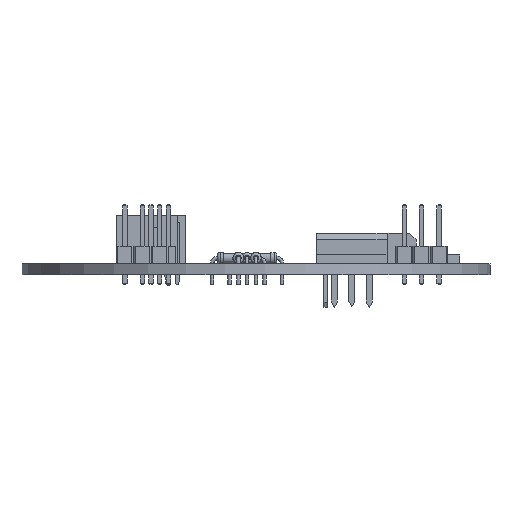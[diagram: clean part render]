
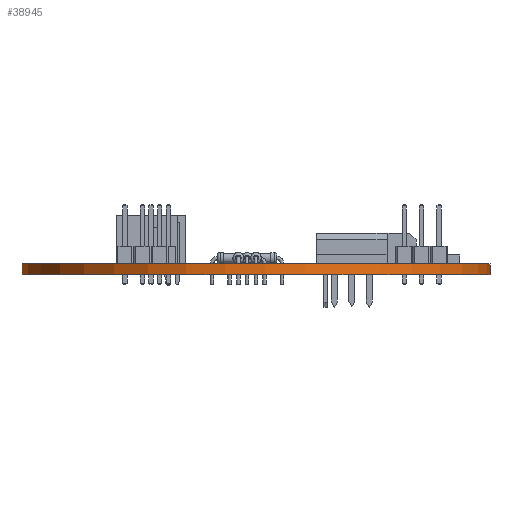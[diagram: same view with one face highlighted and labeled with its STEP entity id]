
A CAD part, left-side view. The second image highlights one B-rep face of the part: STEP entity #38945.
In plain terms, the highlighted cylindrical face has radius 34.077 mm (diameter 68.154 mm), a partial arc.
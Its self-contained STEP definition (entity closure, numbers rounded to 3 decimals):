
#38829 = EDGE_CURVE('',#38830,#38832,#38834,.T.);
#38830 = VERTEX_POINT('',#38831);
#38831 = CARTESIAN_POINT('',(248.639,-120.681,0.));
#38832 = VERTEX_POINT('',#38833);
#38833 = CARTESIAN_POINT('',(248.639,-120.681,1.6));
#38834 = SURFACE_CURVE('',#38835,(#38839,#38851),.PCURVE_S1.);
#38835 = LINE('',#38836,#38837);
#38836 = CARTESIAN_POINT('',(248.639,-120.681,0.));
#38837 = VECTOR('',#38838,1.);
#38838 = DIRECTION('',(0.,0.,1.));
#38839 = PCURVE('',#38840,#38845);
#38840 = PLANE('',#38841);
#38841 = AXIS2_PLACEMENT_3D('',#38842,#38843,#38844);
#38842 = CARTESIAN_POINT('',(248.639,-120.681,0.));
#38843 = DIRECTION('',(-1.,0.,0.));
#38844 = DIRECTION('',(0.,1.,0.));
#38845 = DEFINITIONAL_REPRESENTATION('',(#38846),#38850);
#38846 = LINE('',#38847,#38848);
#38847 = CARTESIAN_POINT('',(0.,0.));
#38848 = VECTOR('',#38849,1.);
#38849 = DIRECTION('',(0.,-1.));
#38850 = ( GEOMETRIC_REPRESENTATION_CONTEXT(2) 
PARAMETRIC_REPRESENTATION_CONTEXT() REPRESENTATION_CONTEXT('2D SPACE',''
  ) );
#38851 = PCURVE('',#38852,#38857);
#38852 = CYLINDRICAL_SURFACE('',#38853,34.077);
#38853 = AXIS2_PLACEMENT_3D('',#38854,#38855,#38856);
#38854 = CARTESIAN_POINT('',(231.14,-91.44,0.));
#38855 = DIRECTION('',(-0.,-0.,-1.));
#38856 = DIRECTION('',(1.,0.,-0.));
#38857 = DEFINITIONAL_REPRESENTATION('',(#38858),#38862);
#38858 = LINE('',#38859,#38860);
#38859 = CARTESIAN_POINT('',(-5.252,0.));
#38860 = VECTOR('',#38861,1.);
#38861 = DIRECTION('',(-0.,-1.));
#38862 = ( GEOMETRIC_REPRESENTATION_CONTEXT(2) 
PARAMETRIC_REPRESENTATION_CONTEXT() REPRESENTATION_CONTEXT('2D SPACE',''
  ) );
#38880 = PLANE('',#38881);
#38881 = AXIS2_PLACEMENT_3D('',#38882,#38883,#38884);
#38882 = CARTESIAN_POINT('',(232.054,-90.973,1.6));
#38883 = DIRECTION('',(0.,0.,1.));
#38884 = DIRECTION('',(1.,0.,-0.));
#38908 = PLANE('',#38909);
#38909 = AXIS2_PLACEMENT_3D('',#38910,#38911,#38912);
#38910 = CARTESIAN_POINT('',(248.64,-82.94,0.));
#38911 = DIRECTION('',(0.,1.,0.));
#38912 = DIRECTION('',(1.,0.,0.));
#38934 = PLANE('',#38935);
#38935 = AXIS2_PLACEMENT_3D('',#38936,#38937,#38938);
#38936 = CARTESIAN_POINT('',(232.054,-90.973,0.));
#38937 = DIRECTION('',(0.,0.,1.));
#38938 = DIRECTION('',(1.,0.,-0.));
#38945 = ADVANCED_FACE('',(#38946),#38852,.T.);
#38946 = FACE_BOUND('',#38947,.F.);
#38947 = EDGE_LOOP('',(#38948,#38973,#38995,#38996));
#38948 = ORIENTED_EDGE('',*,*,#38949,.T.);
#38949 = EDGE_CURVE('',#38950,#38952,#38954,.T.);
#38950 = VERTEX_POINT('',#38951);
#38951 = CARTESIAN_POINT('',(264.14,-82.94,0.));
#38952 = VERTEX_POINT('',#38953);
#38953 = CARTESIAN_POINT('',(264.14,-82.94,1.6));
#38954 = SURFACE_CURVE('',#38955,(#38959,#38966),.PCURVE_S1.);
#38955 = LINE('',#38956,#38957);
#38956 = CARTESIAN_POINT('',(264.14,-82.94,0.));
#38957 = VECTOR('',#38958,1.);
#38958 = DIRECTION('',(0.,0.,1.));
#38959 = PCURVE('',#38852,#38960);
#38960 = DEFINITIONAL_REPRESENTATION('',(#38961),#38965);
#38961 = LINE('',#38962,#38963);
#38962 = CARTESIAN_POINT('',(-0.252,0.));
#38963 = VECTOR('',#38964,1.);
#38964 = DIRECTION('',(-0.,-1.));
#38965 = ( GEOMETRIC_REPRESENTATION_CONTEXT(2) 
PARAMETRIC_REPRESENTATION_CONTEXT() REPRESENTATION_CONTEXT('2D SPACE',''
  ) );
#38966 = PCURVE('',#38908,#38967);
#38967 = DEFINITIONAL_REPRESENTATION('',(#38968),#38972);
#38968 = LINE('',#38969,#38970);
#38969 = CARTESIAN_POINT('',(15.5,0.));
#38970 = VECTOR('',#38971,1.);
#38971 = DIRECTION('',(0.,-1.));
#38972 = ( GEOMETRIC_REPRESENTATION_CONTEXT(2) 
PARAMETRIC_REPRESENTATION_CONTEXT() REPRESENTATION_CONTEXT('2D SPACE',''
  ) );
#38973 = ORIENTED_EDGE('',*,*,#38974,.T.);
#38974 = EDGE_CURVE('',#38952,#38832,#38975,.T.);
#38975 = SURFACE_CURVE('',#38976,(#38981,#38988),.PCURVE_S1.);
#38976 = CIRCLE('',#38977,34.077);
#38977 = AXIS2_PLACEMENT_3D('',#38978,#38979,#38980);
#38978 = CARTESIAN_POINT('',(231.14,-91.44,1.6));
#38979 = DIRECTION('',(0.,0.,1.));
#38980 = DIRECTION('',(1.,0.,-0.));
#38981 = PCURVE('',#38852,#38982);
#38982 = DEFINITIONAL_REPRESENTATION('',(#38983),#38987);
#38983 = LINE('',#38984,#38985);
#38984 = CARTESIAN_POINT('',(-0.,-1.6));
#38985 = VECTOR('',#38986,1.);
#38986 = DIRECTION('',(-1.,0.));
#38987 = ( GEOMETRIC_REPRESENTATION_CONTEXT(2) 
PARAMETRIC_REPRESENTATION_CONTEXT() REPRESENTATION_CONTEXT('2D SPACE',''
  ) );
#38988 = PCURVE('',#38880,#38989);
#38989 = DEFINITIONAL_REPRESENTATION('',(#38990),#38994);
#38990 = CIRCLE('',#38991,34.077);
#38991 = AXIS2_PLACEMENT_2D('',#38992,#38993);
#38992 = CARTESIAN_POINT('',(-0.914,-0.467));
#38993 = DIRECTION('',(1.,0.));
#38994 = ( GEOMETRIC_REPRESENTATION_CONTEXT(2) 
PARAMETRIC_REPRESENTATION_CONTEXT() REPRESENTATION_CONTEXT('2D SPACE',''
  ) );
#38995 = ORIENTED_EDGE('',*,*,#38829,.F.);
#38996 = ORIENTED_EDGE('',*,*,#38997,.F.);
#38997 = EDGE_CURVE('',#38950,#38830,#38998,.T.);
#38998 = SURFACE_CURVE('',#38999,(#39004,#39011),.PCURVE_S1.);
#38999 = CIRCLE('',#39000,34.077);
#39000 = AXIS2_PLACEMENT_3D('',#39001,#39002,#39003);
#39001 = CARTESIAN_POINT('',(231.14,-91.44,0.));
#39002 = DIRECTION('',(0.,0.,1.));
#39003 = DIRECTION('',(1.,0.,-0.));
#39004 = PCURVE('',#38852,#39005);
#39005 = DEFINITIONAL_REPRESENTATION('',(#39006),#39010);
#39006 = LINE('',#39007,#39008);
#39007 = CARTESIAN_POINT('',(-0.,0.));
#39008 = VECTOR('',#39009,1.);
#39009 = DIRECTION('',(-1.,0.));
#39010 = ( GEOMETRIC_REPRESENTATION_CONTEXT(2) 
PARAMETRIC_REPRESENTATION_CONTEXT() REPRESENTATION_CONTEXT('2D SPACE',''
  ) );
#39011 = PCURVE('',#38934,#39012);
#39012 = DEFINITIONAL_REPRESENTATION('',(#39013),#39017);
#39013 = CIRCLE('',#39014,34.077);
#39014 = AXIS2_PLACEMENT_2D('',#39015,#39016);
#39015 = CARTESIAN_POINT('',(-0.914,-0.467));
#39016 = DIRECTION('',(1.,0.));
#39017 = ( GEOMETRIC_REPRESENTATION_CONTEXT(2) 
PARAMETRIC_REPRESENTATION_CONTEXT() REPRESENTATION_CONTEXT('2D SPACE',''
  ) );
